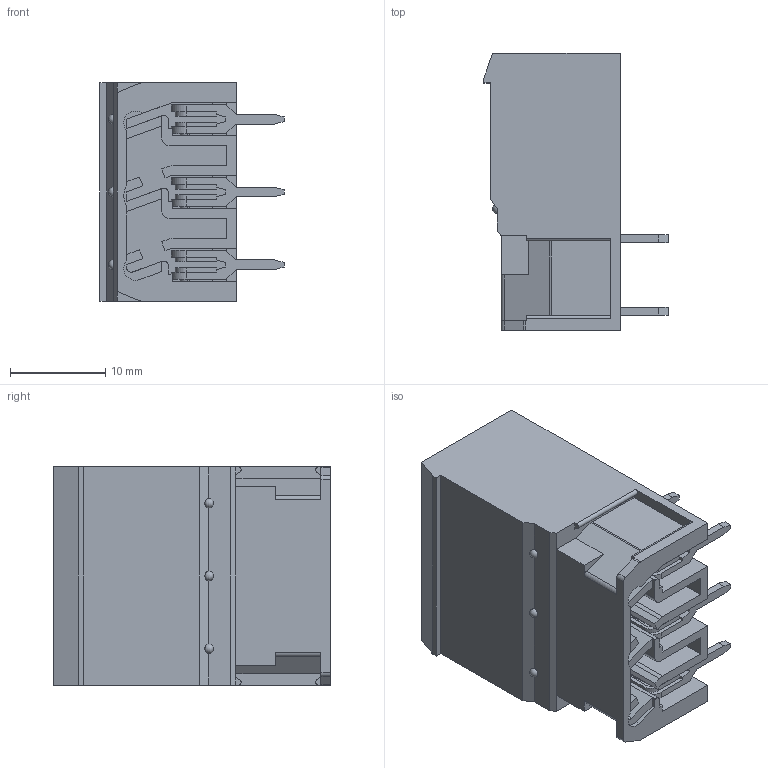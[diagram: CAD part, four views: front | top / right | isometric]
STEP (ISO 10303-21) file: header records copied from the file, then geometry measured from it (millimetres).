
FILE_DESCRIPTION((''),'2;1');
FILE_NAME('3PIN_SW0001','2019-05-22T',('zhenbing.lai'),(''),'CREO PARAMETRIC BY PTC INC, 2016260','CREO PARAMETRIC BY PTC INC, 2016260','');
FILE_SCHEMA(('CONFIG_CONTROL_DESIGN'));
Length unit declared in the file: millimetre
Products named in the file (1): 3PIN_SW0001
Bounding box: 19.3 x 29 x 22.86 mm (x, y, z)
Volume: 4565.9 mm3; surface area: 5819.7 mm2
Topology: 1 solids, 7 shells, 444 faces, 1273 edges, 840 vertices
Faces by surface type: plane 386, cylinder 49, sphere 9
Entity records: 14330 total; most frequent: CARTESIAN_POINT 2588, ORIENTED_EDGE 2528, DIRECTION 2283, EDGE_CURVE 1264, VECTOR 1127, LINE 1127, VERTEX_POINT 840, AXIS2_PLACEMENT_3D 578
